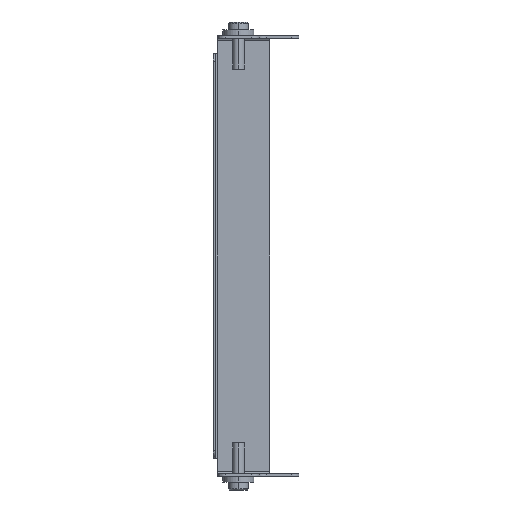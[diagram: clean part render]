
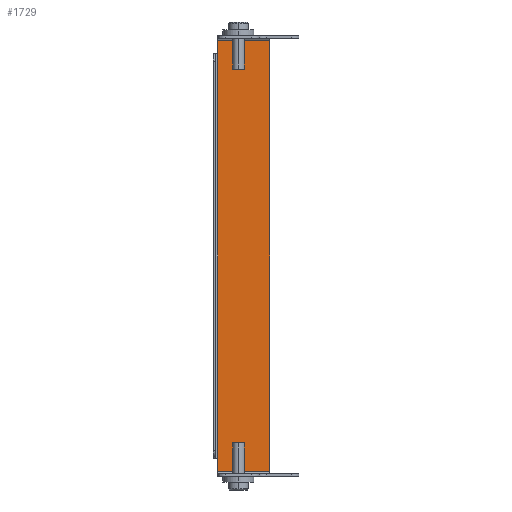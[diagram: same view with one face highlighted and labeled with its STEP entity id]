
A CAD part, left-side view. The second image highlights one B-rep face of the part: STEP entity #1729.
In plain terms, the highlighted planar face has unit normal (-1, 0, 0) as drawn and (0, 0, 1) by its records, which use the part's own axes.
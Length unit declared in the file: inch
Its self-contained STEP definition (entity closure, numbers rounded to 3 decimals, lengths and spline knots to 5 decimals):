
#329=DIRECTION('',(0.,1.,0.));
#330=VECTOR('',#329,1.03498);
#331=CARTESIAN_POINT('',(-4.3095,-0.22248,0.));
#332=LINE('',#331,#330);
#333=DIRECTION('',(1.,0.,0.));
#334=VECTOR('',#333,8.619);
#335=CARTESIAN_POINT('',(-4.3095,-0.22248,0.));
#336=LINE('',#335,#334);
#341=DIRECTION('',(1.,0.,0.));
#342=VECTOR('',#341,0.2645);
#343=CARTESIAN_POINT('',(-4.3095,0.8125,0.));
#344=LINE('',#343,#342);
#721=DIRECTION('',(0.,-1.,0.));
#722=VECTOR('',#721,1.03498);
#723=CARTESIAN_POINT('',(4.3095,0.8125,0.));
#724=LINE('',#723,#722);
#743=DIRECTION('',(1.,0.,0.));
#744=VECTOR('',#743,0.2645);
#745=CARTESIAN_POINT('',(4.045,0.8125,0.));
#746=LINE('',#745,#744);
#829=DIRECTION('',(1.,0.,0.));
#830=VECTOR('',#829,8.09);
#831=CARTESIAN_POINT('',(-4.045,0.8125,0.));
#832=LINE('',#831,#830);
#1119=CARTESIAN_POINT('',(4.3095,0.8125,0.));
#1120=CARTESIAN_POINT('',(4.3095,-0.22248,0.));
#1121=VERTEX_POINT('',#1119);
#1122=VERTEX_POINT('',#1120);
#1198=CARTESIAN_POINT('',(4.045,0.8125,0.));
#1200=VERTEX_POINT('',#1198);
#1213=CARTESIAN_POINT('',(-4.3095,0.8125,0.));
#1214=VERTEX_POINT('',#1213);
#1223=CARTESIAN_POINT('',(-4.3095,-0.22248,0.));
#1224=VERTEX_POINT('',#1223);
#1409=CARTESIAN_POINT('',(-4.045,0.8125,0.));
#1410=VERTEX_POINT('',#1409);
#1712=CARTESIAN_POINT('',(0.,0.,0.));
#1713=DIRECTION('',(0.,0.,1.));
#1714=DIRECTION('',(1.,0.,0.));
#1715=AXIS2_PLACEMENT_3D('',#1712,#1713,#1714);
#1716=PLANE('',#1715);
#1717=ORIENTED_EDGE('',*,*,#1678,.F.);
#1718=ORIENTED_EDGE('',*,*,#1706,.T.);
#1720=ORIENTED_EDGE('',*,*,#1719,.T.);
#1722=ORIENTED_EDGE('',*,*,#1721,.T.);
#1724=ORIENTED_EDGE('',*,*,#1723,.T.);
#1726=ORIENTED_EDGE('',*,*,#1725,.T.);
#1727=EDGE_LOOP('',(#1717,#1718,#1720,#1722,#1724,#1726));
#1728=FACE_OUTER_BOUND('',#1727,.F.);
#1678=EDGE_CURVE('',#1224,#1122,#336,.T.);
#1706=EDGE_CURVE('',#1224,#1214,#332,.T.);
#1719=EDGE_CURVE('',#1214,#1410,#344,.T.);
#1721=EDGE_CURVE('',#1410,#1200,#832,.T.);
#1723=EDGE_CURVE('',#1200,#1121,#746,.T.);
#1725=EDGE_CURVE('',#1121,#1122,#724,.T.);
#1729=ADVANCED_FACE('',(#1728),#1716,.T.);
